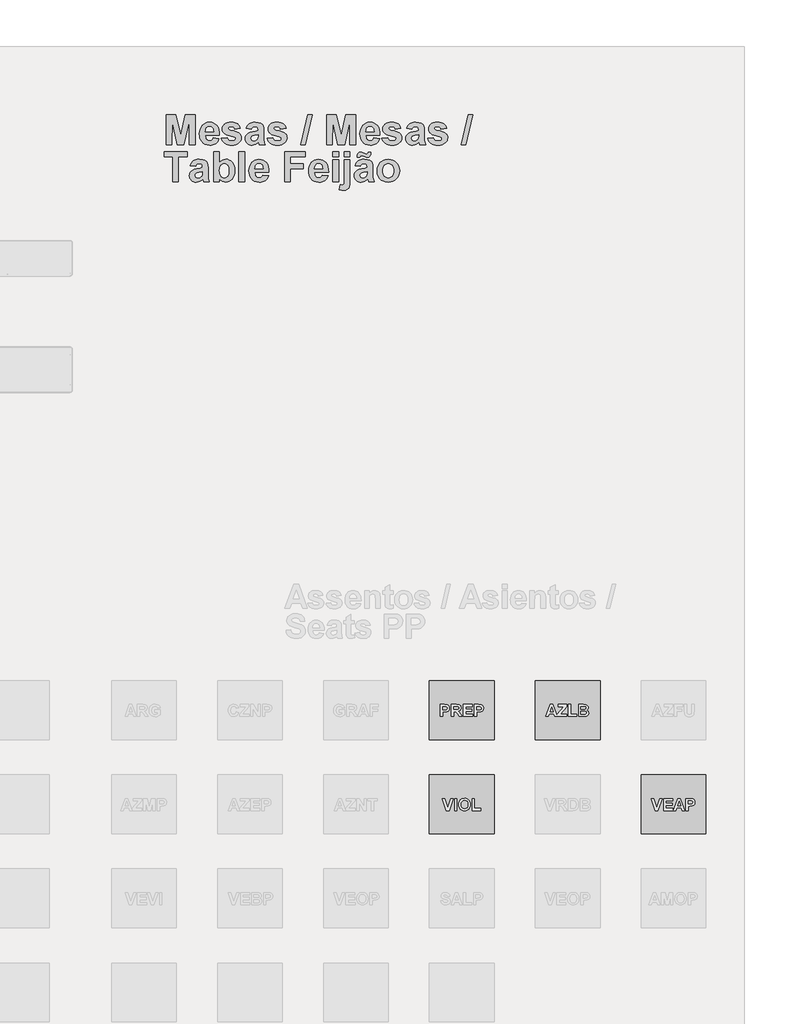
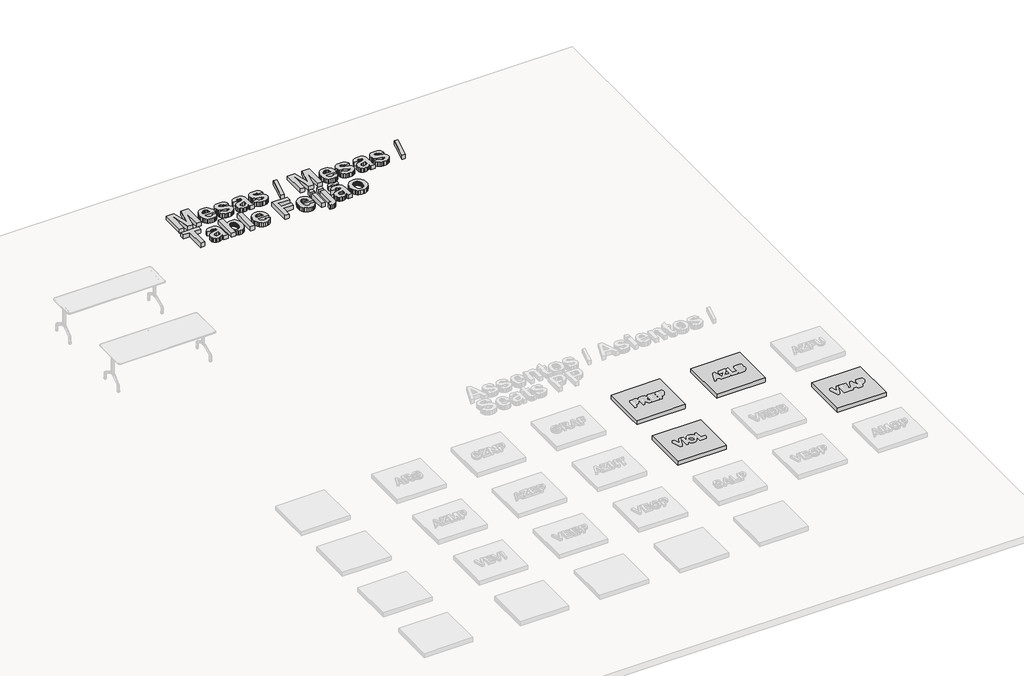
# One storey, part 11 of 11: 5 proxies.
"""IFC4 building model written with IfcOpenShell, lengths in millimetres."""

import ifcopenshell
import ifcopenshell.guid

model = None  # the IFC model being written
_history = None  # IfcOwnerHistory: only IFC2X3 demands one
_inside = {}  # id of a spatial element -> (the spatial element, [elements in it])
_under = {}  # id of a project, library or spatial element -> (it, [spatial elements below it])
_declared = {}  # id of a project -> (the project, [libraries it declares])
_typed = {}  # id of a type object -> (the type object, [elements of that type])
_made_of = {}  # id of a material, layer set ... -> (it, [elements and type objects made of it])


def new_model(schema):
    """Start an empty IFC model of exactly this schema.

    Asked for "IFC4X3", IfcOpenShell would pick the latest addendum, in which some entities
    have other attributes; the version numbers below select the first issue.
    IFC2X3 requires an IfcOwnerHistory on every rooted entity: one is made here for all.
    """
    global model, _history
    if schema == "IFC4X3":
        model = ifcopenshell.file(schema_version=(4, 3, 0, 0))
    else:
        model = ifcopenshell.file(schema=schema)
    _inside.clear()
    _under.clear()
    _declared.clear()
    _typed.clear()
    _made_of.clear()
    _history = None
    if model.schema == "IFC2X3":
        org = make("IfcOrganization", Name="unknown")
        user = make(
            "IfcPersonAndOrganization",
            ThePerson=make("IfcPerson", FamilyName="unknown"),
            TheOrganization=org,
        )
        app = make(
            "IfcApplication",
            ApplicationDeveloper=org,
            Version="unknown",
            ApplicationFullName="unknown",
            ApplicationIdentifier="unknown",
        )
        _history = make(
            "IfcOwnerHistory",
            OwningUser=user,
            OwningApplication=app,
            ChangeAction="ADDED",
            CreationDate=0,
        )
    return model


def make(cls, **values):
    """One entity of the class cls with the attributes given. An attribute that is None is left unset."""
    return model.create_entity(
        cls, **{name: value for name, value in values.items() if value is not None}
    )


def rooted(cls, **values):
    """An entity with a GlobalId (a new one), such as an element, a storey or a relation."""
    return make(cls, GlobalId=ifcopenshell.guid.new(), OwnerHistory=_history, **values)


def si_unit(unit_type, name, prefix=None):
    """IfcSIUnit, for example si_unit("LENGTHUNIT", "METRE", prefix="MILLI")."""
    return make("IfcSIUnit", UnitType=unit_type, Prefix=prefix, Name=name)


def assignment(units):
    """IfcUnitAssignment: the units of a project."""
    return None if units is None else make("IfcUnitAssignment", Units=units)


def point(xyz):
    """IfcCartesianPoint."""
    return None if xyz is None else make("IfcCartesianPoint", Coordinates=xyz)


def direction(xyz):
    """IfcDirection."""
    return None if xyz is None else make("IfcDirection", DirectionRatios=xyz)


def frame(location, z_axis=None, x_axis=None):
    """IfcAxis2Placement3D, a coordinate frame: its origin and axes. An axis left out is left unset."""
    return make(
        "IfcAxis2Placement3D",
        Location=point(location),
        Axis=direction(z_axis),
        RefDirection=direction(x_axis),
    )


def origin():
    """The frame at (0, 0, 0) with its axes left unset."""
    return frame((0.0, 0.0, 0.0))


def origin_with_axes():
    """The frame at (0, 0, 0) with the z axis (0, 0, 1) and the x axis (1, 0, 0) written out."""
    return frame((0.0, 0.0, 0.0), z_axis=(0.0, 0.0, 1.0), x_axis=(1.0, 0.0, 0.0))


def place(relative_to, where):
    """IfcLocalPlacement: puts the frame where relative to a parent placement (None: the world)."""
    return make(
        "IfcLocalPlacement", PlacementRelTo=relative_to, RelativePlacement=where
    )


def context(
    kind, dimensions, precision=None, world=None, true_north=None, identifier=None
):
    """IfcGeometricRepresentationContext, for example the 3D "Model" context."""
    return make(
        "IfcGeometricRepresentationContext",
        ContextIdentifier=identifier,
        ContextType=kind,
        CoordinateSpaceDimension=dimensions,
        Precision=precision,
        WorldCoordinateSystem=world,
        TrueNorth=true_north,
    )


def project(units=None, contexts=None):
    """IfcProject with its units and contexts."""
    return rooted(
        "IfcProject",
        Name="project",
        RepresentationContexts=contexts,
        UnitsInContext=assignment(units),
    )


def spatial(cls, under=None, at=None, **own):
    """A site, building, storey or space (cls), placed at a placement, below another one or the project."""
    s = rooted(cls, ObjectPlacement=at, **own)
    if under is not None:
        _under.setdefault(under.id(), (under, []))[1].append(s)
    return s


def polyline(points):
    """IfcPolyline through the points."""
    return make("IfcPolyline", Points=[point(p) for p in points])


def outline(outer, holes=None, kind="AREA"):
    """IfcArbitraryClosedProfileDef: a profile drawn as a closed curve; with holes, ...WithVoids."""
    if holes is None:
        return make("IfcArbitraryClosedProfileDef", ProfileType=kind, OuterCurve=outer)
    return make(
        "IfcArbitraryProfileDefWithVoids",
        ProfileType=kind,
        OuterCurve=outer,
        InnerCurves=holes,
    )


def extrude(swept, where, along, depth):
    """IfcExtrudedAreaSolid: the profile swept, set in the frame where, extruded along a direction by depth."""
    return make(
        "IfcExtrudedAreaSolid",
        SweptArea=swept,
        Position=where,
        ExtrudedDirection=direction(along),
        Depth=depth,
    )


def shape(context_of_items, identifier, shape_type, items):
    """IfcShapeRepresentation: the items that make up one representation, for example the "Body"."""
    return make(
        "IfcShapeRepresentation",
        ContextOfItems=context_of_items,
        RepresentationIdentifier=identifier,
        RepresentationType=shape_type,
        Items=items,
    )


def source(mapping_origin, context_of_items, identifier, shape_type, items):
    """IfcRepresentationMap: a shape defined once, which mapped items show again and again."""
    return make(
        "IfcRepresentationMap",
        MappingOrigin=mapping_origin,
        MappedRepresentation=shape(context_of_items, identifier, shape_type, items),
    )


def transform(
    local_origin,
    x_axis=None,
    y_axis=None,
    z_axis=None,
    scale=None,
    scale2=None,
    scale3=None,
    uniform=True,
):
    """IfcCartesianTransformationOperator3D, or its non-uniform kind. x_axis, y_axis, z_axis: its Axis1, 2, 3."""
    if uniform:
        return make(
            "IfcCartesianTransformationOperator3D",
            Axis1=direction(x_axis),
            Axis2=direction(y_axis),
            LocalOrigin=point(local_origin),
            Scale=scale,
            Axis3=direction(z_axis),
        )
    return make(
        "IfcCartesianTransformationOperator3DnonUniform",
        Axis1=direction(x_axis),
        Axis2=direction(y_axis),
        LocalOrigin=point(local_origin),
        Scale=scale,
        Axis3=direction(z_axis),
        Scale2=scale2,
        Scale3=scale3,
    )


def mapped(mapping_source, mapping_target):
    """IfcMappedItem: shows the shape of a source again, moved by a transform."""
    return make(
        "IfcMappedItem", MappingSource=mapping_source, MappingTarget=mapping_target
    )


def made_of(thing, what):
    """Note that an element or type object is made of a material, layer set ...; save() writes the relation."""
    if what is not None:
        _made_of.setdefault(what.id(), (what, []))[1].append(thing)
    return thing


def element(
    cls,
    number,
    at=None,
    inside=None,
    cuts=None,
    type_object=None,
    material=None,
    context=None,
    identifier="Body",
    shape_type=None,
    held_by="IfcProductDefinitionShape",
    body=None,
    shapes=None,
    **own,
):
    """One element of the class cls, such as IfcWall. Its Tag is "e" and its number.

    at: its placement. inside: the storey or other place that contains it. cuts: it is an
    opening in that element (IfcRelVoidsElement). A single representation is given by context,
    identifier, shape_type and body (its items); several are given by shapes. held_by: the class
    of the entity that holds the representations. save() writes the other relations.
    """
    e = rooted(cls, Tag="e%d" % number, ObjectPlacement=at, **own)
    if body is not None:
        shapes = [shape(context, identifier, shape_type, body)]
    if shapes is not None:
        e.Representation = make(held_by, Representations=shapes)
    if inside is not None:
        _inside.setdefault(inside.id(), (inside, []))[1].append(e)
    if cuts is not None:
        rooted(
            "IfcRelVoidsElement", RelatingBuildingElement=cuts, RelatedOpeningElement=e
        )
    if type_object is not None:
        _typed.setdefault(type_object.id(), (type_object, []))[1].append(e)
    return made_of(e, material)


def aggregate(whole, parts):
    """IfcRelAggregates: a whole, such as a stair, and the parts it consists of."""
    return rooted("IfcRelAggregates", RelatingObject=whole, RelatedObjects=parts)


def save(model, path):
    """Write the relations noted so far, then the file.

    IfcRelAggregates (storeys below a building ...), IfcRelContainedInSpatialStructure (elements
    in a storey), IfcRelDefinesByType, IfcRelAssociatesMaterial and IfcRelDeclares: one each for
    every whole, place, type object, material and project.
    """
    for whole, parts in _under.values():
        aggregate(whole, parts)
    for where, things in _inside.values():
        rooted(
            "IfcRelContainedInSpatialStructure",
            RelatedElements=things,
            RelatingStructure=where,
        )
    for kind, things in _typed.values():
        rooted("IfcRelDefinesByType", RelatedObjects=things, RelatingType=kind)
    for what, things in _made_of.values():
        rooted("IfcRelAssociatesMaterial", RelatedObjects=things, RelatingMaterial=what)
    for by, libraries in _declared.values():
        rooted("IfcRelDeclares", RelatingContext=by, RelatedDefinitions=libraries)
    model.write(path)


def generic_models_41_generic_models_1_c03e9e06(model_context):
    return source(origin(), model_context, "Body", "SweptSolid", [
        extrude(outline(polyline([(95.1731655, -3424.1855869), (95.1731655, -2424.1855869), (1195.1731655, -2424.1855869), (1195.1731655, -3424.1855869), (95.1731655, -3424.1855869)])), origin_with_axes(), (0.0, 0.0, 1.0), 100.0),
    ])


def generic_models_42_generic_models_1_e7106305(model_context):
    return source(origin(), model_context, "Body", "SweptSolid", [
        extrude(outline(polyline([(1895.1731655, -3424.1855869), (1895.1731655, -2424.1855869), (2995.1731655, -2424.1855869), (2995.1731655, -3424.1855869), (1895.1731655, -3424.1855869)])), origin_with_axes(), (0.0, 0.0, 1.0), 100.0),
    ])


def generic_models_44_generic_models_1_6b9e85da(model_context):
    return source(origin(), model_context, "Body", "SweptSolid", [
        extrude(outline(polyline([(-5304.8268345, -5024.1855869), (-5304.8268345, -4024.1855869), (-4204.8268345, -4024.1855869), (-4204.8268345, -5024.1855869), (-5304.8268345, -5024.1855869)])), origin_with_axes(), (0.0, 0.0, 1.0), 100.0),
    ])


def generic_models_50_generic_models_1_aca8a060(model_context):
    return source(origin(), model_context, "Body", "SweptSolid", [
        extrude(outline(polyline([(-1704.8268345, -5024.1855869), (-1704.8268345, -4024.1855869), (-604.8268345, -4024.1855869), (-604.8268345, -5024.1855869), (-1704.8268345, -5024.1855869)])), origin_with_axes(), (0.0, 0.0, 1.0), 100.0),
    ])


model = new_model("IFC4")

# Units and contexts
model_context = context("Model", 3, world=origin())
ifc_project = project(units=[si_unit("LENGTHUNIT", "METRE", prefix="MILLI")], contexts=[model_context])

# Site, building, storey
site = spatial("IfcSite", under=ifc_project)
building = spatial("IfcBuilding", under=site)
storey = spatial("IfcBuildingStorey", under=building, Name="Biblioteca BIM Revit Metadil - Refeitório", Elevation=0.0)

# Proxies
placement = place(None, origin())
element("IfcBuildingElementProxy", 1, Name="Arial 500mm", ObjectType="Arial 500mm", at=placement, inside=storey, context=model_context, shape_type="SweptSolid", body=[
    extrude(outline(polyline([(3660.9458691, 11668.448354), (3660.9458691, 12178.5780539), (3827.4465351, 12178.5780539), (3907.9134223, 11830.647331), (3988.3803094, 12178.5780539), (4154.8809754, 12178.5780539), (4154.8809754, 11668.448354), (4057.7134135, 11668.448354), (4053.6647651, 12070.0236684), (3964.8475406, 11668.448354), (3851.1058242, 11668.448354), (3762.1620794, 12070.0236684), (3758.113431, 11668.448354), (3660.9458691, 11668.448354)])), origin_with_axes(), (0.0, 0.0, 1.0), 100.0),
    extrude(outline(polyline([(4462.5782548, 11781.8105095), (4559.7458167, 11765.6159159), (4549.2446348, 11741.4070543), (4536.0865275, 11720.2742166), (4520.2714946, 11702.2174029), (4501.7995363, 11687.236613), (4480.757635, 11675.4741823), (4457.2327737, 11667.0724461), (4431.2249521, 11662.0314044), (4402.7341704, 11660.3510571), (4358.7288415, 11664.3127229), (4320.8439303, 11676.1977201), (4289.0794368, 11696.0060487), (4263.435361, 11723.7377088), (4247.8259235, 11750.7735075), (4236.6763254, 11781.1462781), (4229.9865665, 11814.8560207), (4227.7566468, 11851.9027352), (4230.714058, 11895.5838559), (4239.5862914, 11934.2674263), (4254.3733471, 11967.9534463), (4275.0752252, 11996.6419159), (4300.3002026, 12019.5578985), (4328.6565565, 12035.9264575), (4360.1442869, 12045.7475929), (4394.7633939, 12049.0213047), (4433.2334613, 12045.6606103), (4467.4176548, 12035.5785268), (4497.3159744, 12018.7750544), (4522.9284202, 11995.250193), (4543.3377201, 11964.7825322), (4557.6266023, 11927.1506615), (4565.7950667, 11882.3545809), (4567.8431135, 11830.3942905), (4324.9242087, 11830.3942905), (4331.1553317, 11789.4649854), (4338.1851138, 11772.8433859), (4347.8243763, 11758.7838217), (4359.440518, 11747.6025934), (4372.4009374, 11739.6160018), (4386.7056346, 11734.8240469), (4402.3546096, 11733.2267286), (4422.756002, 11736.1050645), (4439.6780872, 11744.7400725), (4452.9943449, 11759.7643537), (4462.5782548, 11781.8105095)]), holes=[polyline([(4470.6755516, 11887.0753682), (4464.7607293, 11925.4900831), (4458.126323, 11940.7713586), (4449.0405866, 11953.4352461), (4426.2036792, 11970.4680365), (4398.9385625, 11976.1456333), (4383.8668362, 11974.6511127), (4370.1552027, 11970.1675509), (4357.8036621, 11962.6949479), (4346.8122142, 11952.2333036), (4337.8609056, 11939.1463639), (4331.5032624, 11923.9243948), (4326.5689722, 11887.0753682), (4470.6755516, 11887.0753682)])]), origin_with_axes(), (0.0, 0.0, 1.0), 100.0),
    extrude(outline(polyline([(4600.2323008, 11773.7132127), (4697.3998627, 11789.9078063), (4706.6516569, 11765.4261355), (4722.2610944, 11747.6500385), (4744.7658861, 11736.8325561), (4774.7037433, 11733.2267286), (4807.1878208, 11736.6744057), (4830.4991793, 11747.0174372), (4839.988199, 11758.2777406), (4843.1512055, 11772.8275708), (4841.4748121, 11782.8859317), (4836.4456316, 11791.0464887), (4824.9639178, 11797.7204326), (4804.6890456, 11803.8250353), (4710.8426406, 11828.6862669), (4679.6949334, 11840.3103161), (4659.064223, 11851.3966541), (4640.4103918, 11867.9154559), (4627.0862266, 11887.3600388), (4619.0917275, 11909.7304028), (4616.4268944, 11935.0265479), (4618.7121667, 11958.1718485), (4625.5679834, 11979.4035301), (4636.9943447, 11998.7215927), (4652.9912504, 12016.1260364), (4673.7959261, 12030.5177163), (4699.6455974, 12040.7974877), (4730.5402641, 12046.9653505), (4766.4799262, 12049.0213047), (4800.6957498, 12047.3607263), (4830.2145087, 12042.3789909), (4855.0362027, 12034.0760987), (4875.1608321, 12022.4520495), (4891.5531136, 12007.5701036), (4905.1777644, 11989.493521), (4916.0347845, 11968.2223019), (4924.1241738, 11943.756446), (4826.9566119, 11927.5618524), (4819.808217, 11948.3428055), (4808.231613, 11963.6201273), (4791.5309383, 11973.0142568), (4769.0103315, 11976.1456333), (4741.334024, 11973.4887078), (4722.8304355, 11965.5179312), (4715.9034511, 11956.7880331), (4713.5944563, 11945.7807702), (4715.9034511, 11936.2601204), (4722.8304355, 11928.1944537), (4750.5225581, 11916.5862196), (4808.8009542, 11900.9925972), (4871.2545189, 11881.3503263), (4894.1428252, 11869.9872252), (4911.4721475, 11857.596147), (4924.0925437, 11843.2123746), (4933.1071125, 11826.2507519), (4938.5158537, 11806.7112788), (4940.3187674, 11784.5939553), (4937.7053333, 11759.9976254), (4929.8650307, 11737.1963018), (4916.7978598, 11716.1899844), (4898.5038206, 11696.9786732), (4875.0857106, 11680.9540912), (4846.6463278, 11669.5079612), (4813.185672, 11662.6402831), (4774.7037433, 11660.3510571), (4739.4480813, 11662.2567686), (4708.0750099, 11667.973903), (4680.584529, 11677.5024603), (4656.9766387, 11690.8424405), (4637.1801713, 11707.4561325), (4621.1239592, 11726.8058252), (4608.8080024, 11748.8915186), (4600.2323008, 11773.7132127)])), origin_with_axes(), (0.0, 0.0, 1.0), 100.0),
    extrude(outline(polyline([(5110.3620008, 11927.5618524), (5021.2917357, 11943.756446), (5029.6618418, 11968.8390881), (5040.6018908, 11990.442423), (5054.1118826, 12008.5664507), (5070.1918173, 12023.2111711), (5089.656169, 12034.5031046), (5113.3194119, 12042.5687713), (5141.1815461, 12047.4081714), (5173.2425714, 12049.0213047), (5227.424874, 12045.1149916), (5265.7288836, 12033.3960523), (5291.6022774, 12015.6832155), (5308.4927325, 11993.79521), (5317.7919718, 11959.7770743), (5320.8917182, 11905.6738469), (5320.8917182, 11790.7934482), (5322.1727359, 11748.1561196), (5326.0157889, 11718.4238578), (5333.3697792, 11694.2901177), (5345.1836087, 11668.448354), (5248.0160468, 11668.448354), (5238.9065879, 11699.3192981), (5235.4905408, 11711.5917636), (5210.3446385, 11689.2134921), (5183.4907127, 11673.1928638), (5154.8655032, 11663.5615088), (5124.40575, 11660.3510571), (5098.1646567, 11662.3002599), (5074.857252, 11668.1478683), (5054.4835359, 11677.8938823), (5037.0435084, 11691.5383019), (5023.0669731, 11708.1559477), (5013.0837336, 11726.8216403), (5007.0937899, 11747.5353795), (5005.097142, 11770.2971656), (5008.6555244, 11800.0926875), (5019.3306716, 11826.4721623), (5036.4267221, 11848.2652776), (5059.2478146, 11864.3017209), (5090.5932097, 11876.6058165), (5133.2621684, 11887.2018885), (5188.5198932, 11899.6957645), (5223.7241563, 11911.3672587), (5223.7241563, 11921.6154), (5220.703485, 11946.8561925), (5211.6414712, 11963.6201273), (5194.22912, 11973.0142568), (5166.1574367, 11976.1456333), (5146.0090848, 11973.4570777), (5130.8582834, 11965.391411), (5119.4081996, 11950.5569101), (5110.3620008, 11927.5618524)]), holes=[polyline([(5223.7241563, 11838.4915873), (5168.9408825, 11825.0171793), (5137.9434181, 11817.2836282), (5119.8510205, 11809.6449673), (5106.6612831, 11795.8226286), (5102.2647039, 11778.6475029), (5105.7914563, 11761.4249322), (5116.3717133, 11746.7011366), (5132.3923415, 11736.5953306), (5152.2402078, 11733.2267286), (5176.0576473, 11737.1488567), (5198.6731443, 11748.9152412), (5212.2740725, 11762.1366086), (5220.181589, 11778.0149016), (5223.7241563, 11820.9052707), (5223.7241563, 11838.4915873)])]), origin_with_axes(), (0.0, 0.0, 1.0), 100.0),
    extrude(outline(polyline([(5377.572796, 11773.7132127), (5474.7403579, 11789.9078063), (5483.9921521, 11765.4261355), (5499.6015896, 11747.6500385), (5522.1063813, 11736.8325561), (5552.0442385, 11733.2267286), (5584.528316, 11736.6744057), (5607.8396745, 11747.0174372), (5617.3286942, 11758.2777406), (5620.4917007, 11772.8275708), (5618.8153073, 11782.8859317), (5613.7861268, 11791.0464887), (5602.304413, 11797.7204326), (5582.0295408, 11803.8250353), (5488.1831358, 11828.6862669), (5457.0354286, 11840.3103161), (5436.4047182, 11851.3966541), (5417.750887, 11867.9154559), (5404.4267218, 11887.3600388), (5396.4322227, 11909.7304028), (5393.7673896, 11935.0265479), (5396.0526619, 11958.1718485), (5402.9084786, 11979.4035301), (5414.3348399, 11998.7215927), (5430.3317456, 12016.1260364), (5451.1364214, 12030.5177163), (5476.9860926, 12040.7974877), (5507.8807593, 12046.9653505), (5543.8204214, 12049.0213047), (5578.036245, 12047.3607263), (5607.5550039, 12042.3789909), (5632.3766979, 12034.0760987), (5652.5013273, 12022.4520495), (5668.8936088, 12007.5701036), (5682.5182596, 11989.493521), (5693.3752797, 11968.2223019), (5701.464669, 11943.756446), (5604.2971071, 11927.5618524), (5597.1487122, 11948.3428055), (5585.5721082, 11963.6201273), (5568.8714335, 11973.0142568), (5546.3508267, 11976.1456333), (5518.6745192, 11973.4887078), (5500.1709307, 11965.5179312), (5493.2439463, 11956.7880331), (5490.9349515, 11945.7807702), (5493.2439463, 11936.2601204), (5500.1709307, 11928.1944537), (5527.8630533, 11916.5862196), (5586.1414494, 11900.9925972), (5648.5950141, 11881.3503263), (5671.4833205, 11869.9872252), (5688.8126427, 11857.596147), (5701.4330389, 11843.2123746), (5710.4476077, 11826.2507519), (5715.8563489, 11806.7112788), (5717.6592627, 11784.5939553), (5715.0458285, 11759.9976254), (5707.2055259, 11737.1963018), (5694.138355, 11716.1899844), (5675.8443158, 11696.9786732), (5652.4262059, 11680.9540912), (5623.986823, 11669.5079612), (5590.5261672, 11662.6402831), (5552.0442385, 11660.3510571), (5516.7885765, 11662.2567686), (5485.4155051, 11667.973903), (5457.9250242, 11677.5024603), (5434.3171339, 11690.8424405), (5414.5206665, 11707.4561325), (5398.4644544, 11726.8058252), (5386.1484976, 11748.8915186), (5377.572796, 11773.7132127)])), origin_with_axes(), (0.0, 0.0, 1.0), 100.0),
    extrude(outline(polyline([(5950.7095869, 11668.448354), (6072.1690393, 12178.5780539), (6146.8159944, 12178.5780539), (6025.356542, 11668.448354), (5950.7095869, 11668.448354)])), origin_with_axes(), (0.0, 0.0, 1.0), 100.0),
    extrude(outline(polyline([(6389.7348991, 11668.448354), (6389.7348991, 12178.5780539), (6556.2355651, 12178.5780539), (6636.7024523, 11830.647331), (6717.1693395, 12178.5780539), (6883.6700055, 12178.5780539), (6883.6700055, 11668.448354), (6786.5024436, 11668.448354), (6782.4537951, 12070.0236684), (6693.6365706, 11668.448354), (6579.8948543, 11668.448354), (6490.9511094, 12070.0236684), (6486.902461, 11668.448354), (6389.7348991, 11668.448354)])), origin_with_axes(), (0.0, 0.0, 1.0), 100.0),
    extrude(outline(polyline([(7191.3672848, 11781.8105095), (7288.5348467, 11765.6159159), (7278.0336649, 11741.4070543), (7264.8755576, 11720.2742166), (7249.0605247, 11702.2174029), (7230.5885663, 11687.236613), (7209.5466651, 11675.4741823), (7186.0218037, 11667.0724461), (7160.0139822, 11662.0314044), (7131.5232005, 11660.3510571), (7087.5178715, 11664.3127229), (7049.6329603, 11676.1977201), (7017.8684668, 11696.0060487), (6992.224391, 11723.7377088), (6976.6149536, 11750.7735075), (6965.4653554, 11781.1462781), (6958.7755965, 11814.8560207), (6956.5456769, 11851.9027352), (6959.503088, 11895.5838559), (6968.3753215, 11934.2674263), (6983.1623772, 11967.9534463), (7003.8642552, 11996.6419159), (7029.0892326, 12019.5578985), (7057.4455865, 12035.9264575), (7088.933317, 12045.7475929), (7123.5524239, 12049.0213047), (7162.0224913, 12045.6606103), (7196.2066849, 12035.5785268), (7226.1050045, 12018.7750544), (7251.7174502, 11995.250193), (7272.1267501, 11964.7825322), (7286.4156323, 11927.1506615), (7294.5840968, 11882.3545809), (7296.6321435, 11830.3942905), (7053.7132388, 11830.3942905), (7059.9443617, 11789.4649854), (7066.9741438, 11772.8433859), (7076.6134064, 11758.7838217), (7088.229548, 11747.6025934), (7101.1899674, 11739.6160018), (7115.4946647, 11734.8240469), (7131.1436397, 11733.2267286), (7151.5450321, 11736.1050645), (7168.4671172, 11744.7400725), (7181.7833749, 11759.7643537), (7191.3672848, 11781.8105095)]), holes=[polyline([(7199.4645816, 11887.0753682), (7193.5497593, 11925.4900831), (7186.9153531, 11940.7713586), (7177.8296167, 11953.4352461), (7154.9927092, 11970.4680365), (7127.7275926, 11976.1456333), (7112.6558663, 11974.6511127), (7098.9442328, 11970.1675509), (7086.5926921, 11962.6949479), (7075.6012443, 11952.2333036), (7066.6499357, 11939.1463639), (7060.2922925, 11923.9243948), (7055.3580022, 11887.0753682), (7199.4645816, 11887.0753682)])]), origin_with_axes(), (0.0, 0.0, 1.0), 100.0),
    extrude(outline(polyline([(7329.0213308, 11773.7132127), (7426.1888927, 11789.9078063), (7435.440687, 11765.4261355), (7451.0501244, 11747.6500385), (7473.5549162, 11736.8325561), (7503.4927734, 11733.2267286), (7535.9768509, 11736.6744057), (7559.2882093, 11747.0174372), (7568.777229, 11758.2777406), (7571.9402356, 11772.8275708), (7570.2638421, 11782.8859317), (7565.2346617, 11791.0464887), (7553.7529478, 11797.7204326), (7533.4780757, 11803.8250353), (7439.6316707, 11828.6862669), (7408.4839634, 11840.3103161), (7387.8532531, 11851.3966541), (7369.1994218, 11867.9154559), (7355.8752566, 11887.3600388), (7347.8807575, 11909.7304028), (7345.2159245, 11935.0265479), (7347.5011967, 11958.1718485), (7354.3570135, 11979.4035301), (7365.7833747, 11998.7215927), (7381.7802805, 12016.1260364), (7402.5849562, 12030.5177163), (7428.4346274, 12040.7974877), (7459.3292941, 12046.9653505), (7495.2689563, 12049.0213047), (7529.4847799, 12047.3607263), (7559.0035387, 12042.3789909), (7583.8252328, 12034.0760987), (7603.9498621, 12022.4520495), (7620.3421437, 12007.5701036), (7633.9667945, 11989.493521), (7644.8238145, 11968.2223019), (7652.9132038, 11943.756446), (7555.7456419, 11927.5618524), (7548.5972471, 11948.3428055), (7537.020643, 11963.6201273), (7520.3199683, 11973.0142568), (7497.7993615, 11976.1456333), (7470.123054, 11973.4887078), (7451.6194656, 11965.5179312), (7444.6924812, 11956.7880331), (7442.3834864, 11945.7807702), (7444.6924812, 11936.2601204), (7451.6194656, 11928.1944537), (7479.3115881, 11916.5862196), (7537.5899842, 11900.9925972), (7600.043549, 11881.3503263), (7622.9318553, 11869.9872252), (7640.2611775, 11857.596147), (7652.8815738, 11843.2123746), (7661.8961425, 11826.2507519), (7667.3048837, 11806.7112788), (7669.1077975, 11784.5939553), (7666.4943633, 11759.9976254), (7658.6540608, 11737.1963018), (7645.5868899, 11716.1899844), (7627.2928506, 11696.9786732), (7603.8747407, 11680.9540912), (7575.4353579, 11669.5079612), (7541.9747021, 11662.6402831), (7503.4927734, 11660.3510571), (7468.2371114, 11662.2567686), (7436.8640399, 11667.973903), (7409.373559, 11677.5024603), (7385.7656687, 11690.8424405), (7365.9692014, 11707.4561325), (7349.9129892, 11726.8058252), (7337.5970324, 11748.8915186), (7329.0213308, 11773.7132127)])), origin_with_axes(), (0.0, 0.0, 1.0), 100.0),
    extrude(outline(polyline([(7839.1510308, 11927.5618524), (7750.0807657, 11943.756446), (7758.4508719, 11968.8390881), (7769.3909209, 11990.442423), (7782.9009127, 12008.5664507), (7798.9808473, 12023.2111711), (7818.445199, 12034.5031046), (7842.108442, 12042.5687713), (7869.9705761, 12047.4081714), (7902.0316015, 12049.0213047), (7956.2139041, 12045.1149916), (7994.5179136, 12033.3960523), (8020.3913074, 12015.6832155), (8037.2817625, 11993.79521), (8046.5810018, 11959.7770743), (8049.6807483, 11905.6738469), (8049.6807483, 11790.7934482), (8050.9617659, 11748.1561196), (8054.8048189, 11718.4238578), (8062.1588092, 11694.2901177), (8073.9726387, 11668.448354), (7976.8050768, 11668.448354), (7967.6956179, 11699.3192981), (7964.2795708, 11711.5917636), (7939.1336686, 11689.2134921), (7912.2797428, 11673.1928638), (7883.6545333, 11663.5615088), (7853.19478, 11660.3510571), (7826.9536867, 11662.3002599), (7803.646282, 11668.1478683), (7783.272566, 11677.8938823), (7765.8325385, 11691.5383019), (7751.8560032, 11708.1559477), (7741.8727637, 11726.8216403), (7735.88282, 11747.5353795), (7733.8861721, 11770.2971656), (7737.4445545, 11800.0926875), (7748.1197017, 11826.4721623), (7765.2157522, 11848.2652776), (7788.0368446, 11864.3017209), (7819.3822397, 11876.6058165), (7862.0511984, 11887.2018885), (7917.3089232, 11899.6957645), (7952.5131864, 11911.3672587), (7952.5131864, 11921.6154), (7949.4925151, 11946.8561925), (7940.4305013, 11963.6201273), (7923.0181501, 11973.0142568), (7894.9464667, 11976.1456333), (7874.7981149, 11973.4570777), (7859.6473134, 11965.391411), (7848.1972296, 11950.5569101), (7839.1510308, 11927.5618524)]), holes=[polyline([(7952.5131864, 11838.4915873), (7897.7299125, 11825.0171793), (7866.7324481, 11817.2836282), (7848.6400505, 11809.6449673), (7835.4503131, 11795.8226286), (7831.053734, 11778.6475029), (7834.5804863, 11761.4249322), (7845.1607433, 11746.7011366), (7861.1813716, 11736.5953306), (7881.0292378, 11733.2267286), (7904.8466773, 11737.1488567), (7927.4621743, 11748.9152412), (7941.0631026, 11762.1366086), (7948.970619, 11778.0149016), (7952.5131864, 11820.9052707), (7952.5131864, 11838.4915873)])]), origin_with_axes(), (0.0, 0.0, 1.0), 100.0),
    extrude(outline(polyline([(8106.361826, 11773.7132127), (8203.5293879, 11789.9078063), (8212.7811822, 11765.4261355), (8228.3906196, 11747.6500385), (8250.8954114, 11736.8325561), (8280.8332686, 11733.2267286), (8313.3173461, 11736.6744057), (8336.6287045, 11747.0174372), (8346.1177242, 11758.2777406), (8349.2807308, 11772.8275708), (8347.6043373, 11782.8859317), (8342.5751569, 11791.0464887), (8331.093443, 11797.7204326), (8310.8185709, 11803.8250353), (8216.9721659, 11828.6862669), (8185.8244587, 11840.3103161), (8165.1937483, 11851.3966541), (8146.539917, 11867.9154559), (8133.2157518, 11887.3600388), (8125.2212527, 11909.7304028), (8122.5564197, 11935.0265479), (8124.8416919, 11958.1718485), (8131.6975087, 11979.4035301), (8143.1238699, 11998.7215927), (8159.1207757, 12016.1260364), (8179.9254514, 12030.5177163), (8205.7751226, 12040.7974877), (8236.6697893, 12046.9653505), (8272.6094515, 12049.0213047), (8306.8252751, 12047.3607263), (8336.3440339, 12042.3789909), (8361.165728, 12034.0760987), (8381.2903573, 12022.4520495), (8397.6826389, 12007.5701036), (8411.3072897, 11989.493521), (8422.1643097, 11968.2223019), (8430.253699, 11943.756446), (8333.0861371, 11927.5618524), (8325.9377423, 11948.3428055), (8314.3611382, 11963.6201273), (8297.6604635, 11973.0142568), (8275.1398567, 11976.1456333), (8247.4635492, 11973.4887078), (8228.9599608, 11965.5179312), (8222.0329764, 11956.7880331), (8219.7239816, 11945.7807702), (8222.0329764, 11936.2601204), (8228.9599608, 11928.1944537), (8256.6520833, 11916.5862196), (8314.9304794, 11900.9925972), (8377.3840442, 11881.3503263), (8400.2723505, 11869.9872252), (8417.6016728, 11857.596147), (8430.222069, 11843.2123746), (8439.2366377, 11826.2507519), (8444.6453789, 11806.7112788), (8446.4482927, 11784.5939553), (8443.8348585, 11759.9976254), (8435.994556, 11737.1963018), (8422.9273851, 11716.1899844), (8404.6333458, 11696.9786732), (8381.2152359, 11680.9540912), (8352.7758531, 11669.5079612), (8319.3151973, 11662.6402831), (8280.8332686, 11660.3510571), (8245.5776066, 11662.2567686), (8214.2045351, 11667.973903), (8186.7140543, 11677.5024603), (8163.1061639, 11690.8424405), (8143.3096966, 11707.4561325), (8127.2534845, 11726.8058252), (8114.9375276, 11748.8915186), (8106.361826, 11773.7132127)])), origin_with_axes(), (0.0, 0.0, 1.0), 100.0),
    extrude(outline(polyline([(8679.4986169, 11668.448354), (8800.9580693, 12178.5780539), (8875.6050244, 12178.5780539), (8754.145572, 11668.448354), (8679.4986169, 11668.448354)])), origin_with_axes(), (0.0, 0.0, 1.0), 100.0),
    extrude(outline(polyline([(3774.3080246, 11038.8916048), (3774.3080246, 11459.9510397), (3628.5566818, 11459.9510397), (3628.5566818, 11549.0213047), (4017.2269294, 11549.0213047), (4017.2269294, 11459.9510397), (3871.4755865, 11459.9510397), (3871.4755865, 11038.8916048), (3774.3080246, 11038.8916048)])), origin_with_axes(), (0.0, 0.0, 1.0), 100.0),
    extrude(outline(polyline([(4162.9782722, 11298.0051032), (4073.9080072, 11314.1996968), (4082.2781133, 11339.2823389), (4093.2181623, 11360.8856738), (4106.7281541, 11379.0097015), (4122.8080888, 11393.6544219), (4142.2724405, 11404.9463554), (4165.9356834, 11413.0120221), (4193.7978175, 11417.8514222), (4225.8588429, 11419.4645555), (4280.0411455, 11415.5582424), (4318.3451551, 11403.8393031), (4344.2185488, 11386.1264663), (4361.1090039, 11364.2384608), (4370.4082433, 11330.2203251), (4373.5079897, 11276.1170977), (4373.5079897, 11161.236699), (4374.7890074, 11118.5993704), (4378.6320603, 11088.8671086), (4385.9860506, 11064.7333685), (4397.7998802, 11038.8916048), (4300.6323183, 11038.8916048), (4291.5228593, 11069.7625489), (4288.1068122, 11082.0350144), (4262.96091, 11059.6567429), (4236.1069842, 11043.6361146), (4207.4817747, 11034.0047596), (4177.0220214, 11030.7943079), (4150.7809281, 11032.7435107), (4127.4735235, 11038.5911191), (4107.0998074, 11048.3371331), (4089.6597799, 11061.9815527), (4075.6832446, 11078.5991985), (4065.7000051, 11097.2648911), (4059.7100614, 11117.9786303), (4057.7134135, 11140.7404164), (4061.2717959, 11170.5359383), (4071.9469431, 11196.9154131), (4089.0429936, 11218.7085284), (4111.864086, 11234.7449717), (4143.2094812, 11247.0490673), (4185.8784398, 11257.6451393), (4241.1361646, 11270.1390153), (4276.3404278, 11281.8105095), (4276.3404278, 11292.0586508), (4273.3197565, 11317.2994433), (4264.2577427, 11334.0633781), (4246.8453915, 11343.4575076), (4218.7737082, 11346.5888841), (4198.6253563, 11343.9003285), (4183.4745548, 11335.8346618), (4172.024471, 11321.0001609), (4162.9782722, 11298.0051032)]), holes=[polyline([(4276.3404278, 11208.9348381), (4221.557154, 11195.4604301), (4190.5596895, 11187.726879), (4172.467292, 11180.0882181), (4159.2775545, 11166.2658794), (4154.8809754, 11149.0907537), (4158.4077277, 11131.868183), (4168.9879847, 11117.1443874), (4185.008613, 11107.0385814), (4204.8564793, 11103.6699794), (4228.6739187, 11107.5921075), (4251.2894157, 11119.358492), (4264.890344, 11132.5798594), (4272.7978604, 11148.4581524), (4276.3404278, 11191.3485215), (4276.3404278, 11208.9348381)])]), origin_with_axes(), (0.0, 0.0, 1.0), 100.0),
    extrude(outline(polyline([(4470.6755516, 11038.8916048), (4470.6755516, 11549.0213047), (4567.8431135, 11549.0213047), (4567.8431135, 11368.4768896), (4591.1386569, 11390.7839934), (4616.4901546, 11406.7176391), (4643.8976065, 11416.2778264), (4673.3610127, 11419.4645555), (4705.1966739, 11416.3885316), (4734.1539991, 11407.16046), (4760.2329883, 11391.7803405), (4783.4336415, 11370.2481733), (4802.474941, 11342.9593341), (4816.0758693, 11310.3091987), (4824.2364262, 11272.2977672), (4826.9566119, 11228.9250396), (4824.2522413, 11184.0815139), (4816.1391294, 11144.6941746), (4802.6172763, 11110.7630216), (4783.686682, 11082.2880549), (4760.8972196, 11059.7595406), (4735.7987625, 11043.6677447), (4708.3913105, 11034.0126671), (4678.6748638, 11030.7943079), (4648.5155961, 11034.684806), (4618.7675193, 11046.3563003), (4591.2651772, 11065.6822704), (4567.8431135, 11092.5361962), (4567.8431135, 11038.8916048), (4470.6755516, 11038.8916048)]), holes=[polyline([(4567.8431135, 11232.2145665), (4572.3345828, 11180.4045188), (4577.9489195, 11160.3352421), (4585.8089908, 11144.1564635), (4599.378289, 11126.4436267), (4615.0351716, 11113.7916004), (4632.7796384, 11106.2003846), (4652.6116896, 11103.6699794), (4668.0273929, 11105.4649856), (4682.2648762, 11110.8500043), (4695.3241396, 11119.8250354), (4707.2051831, 11132.390079), (4717.0856248, 11148.8060831), (4724.1430833, 11169.3339958), (4728.3775583, 11193.973817), (4729.78905, 11222.7255467), (4728.3696508, 11253.3236816), (4724.1114532, 11279.3275494), (4717.0144572, 11300.7371501), (4707.0786628, 11317.5524838), (4694.9208563, 11330.2559089), (4681.1578239, 11339.329784), (4665.7895658, 11344.7741091), (4648.8160817, 11346.5888841), (4632.1509909, 11344.8176004), (4616.9487905, 11339.5037494), (4603.2094807, 11330.647331), (4590.9330615, 11318.2483452), (4580.8312092, 11302.243532), (4573.6156005, 11282.5696311), (4569.2862352, 11259.2266426), (4567.8431135, 11232.2145665)])]), origin_with_axes(), (0.0, 0.0, 1.0), 100.0),
    extrude(outline(polyline([(4899.8322833, 11038.8916048), (4899.8322833, 11549.0213047), (4996.9998452, 11549.0213047), (4996.9998452, 11038.8916048), (4899.8322833, 11038.8916048)])), origin_with_axes(), (0.0, 0.0, 1.0), 100.0),
    extrude(outline(polyline([(5304.6971246, 11152.2537603), (5401.8646865, 11136.0591667), (5391.3635047, 11111.8503051), (5378.2053973, 11090.7174674), (5362.3903645, 11072.6606537), (5343.9184061, 11057.6798638), (5322.8765048, 11045.9174331), (5299.3516435, 11037.5156969), (5273.3438219, 11032.4746552), (5244.8530402, 11030.7943079), (5200.8477113, 11034.7559737), (5162.9628001, 11046.6409709), (5131.1983066, 11066.4492995), (5105.5542308, 11094.1809596), (5089.9447933, 11121.2167583), (5078.7951952, 11151.5895289), (5072.1054363, 11185.2992715), (5069.8755166, 11222.345986), (5072.8329278, 11266.0271067), (5081.7051612, 11304.7106771), (5096.492217, 11338.3966971), (5117.194095, 11367.0851667), (5142.4190724, 11390.0011493), (5170.7754263, 11406.3697083), (5202.2631567, 11416.1908437), (5236.8822637, 11419.4645555), (5275.3523311, 11416.1038611), (5309.5365246, 11406.0217776), (5339.4348443, 11389.2183052), (5365.04729, 11365.6934438), (5385.4565899, 11335.225783), (5399.7454721, 11297.5939123), (5407.9139365, 11252.7978317), (5409.9619833, 11200.8375413), (5167.0430785, 11200.8375413), (5173.2742015, 11159.9082362), (5180.3039836, 11143.2866367), (5189.9432461, 11129.2270725), (5201.5593878, 11118.0458442), (5214.5198072, 11110.0592526), (5228.8245044, 11105.2672977), (5244.4734794, 11103.6699794), (5264.8748718, 11106.5483153), (5281.796957, 11115.1833233), (5295.1132147, 11130.2076045), (5304.6971246, 11152.2537603)]), holes=[polyline([(5312.7944214, 11257.518619), (5306.8795991, 11295.9333339), (5300.2451928, 11311.2146094), (5291.1594564, 11323.8784969), (5268.322549, 11340.9112873), (5241.0574323, 11346.5888841), (5225.985706, 11345.0943635), (5212.2740725, 11340.6108017), (5199.9225319, 11333.1381987), (5188.931084, 11322.6765544), (5179.9797754, 11309.5896147), (5173.6221322, 11294.3676456), (5168.687842, 11257.518619), (5312.7944214, 11257.518619)])]), origin_with_axes(), (0.0, 0.0, 1.0), 100.0),
    extrude(outline(polyline([(5677.1727785, 11038.8916048), (5677.1727785, 11549.0213047), (6025.356542, 11549.0213047), (6025.356542, 11459.9510397), (5774.3403404, 11459.9510397), (5774.3403404, 11346.5888841), (5992.9673547, 11346.5888841), (5992.9673547, 11257.518619), (5774.3403404, 11257.518619), (5774.3403404, 11038.8916048), (5677.1727785, 11038.8916048)])), origin_with_axes(), (0.0, 0.0, 1.0), 100.0),
    extrude(outline(polyline([(6316.8592277, 11152.2537603), (6414.0267896, 11136.0591667), (6403.5256078, 11111.8503051), (6390.3675004, 11090.7174674), (6374.5524676, 11072.6606537), (6356.0805092, 11057.6798638), (6335.038608, 11045.9174331), (6311.5137466, 11037.5156969), (6285.5059251, 11032.4746552), (6257.0151434, 11030.7943079), (6213.0098144, 11034.7559737), (6175.1249032, 11046.6409709), (6143.3604097, 11066.4492995), (6117.7163339, 11094.1809596), (6102.1068965, 11121.2167583), (6090.9572983, 11151.5895289), (6084.2675394, 11185.2992715), (6082.0376198, 11222.345986), (6084.9950309, 11266.0271067), (6093.8672644, 11304.7106771), (6108.6543201, 11338.3966971), (6129.3561981, 11367.0851667), (6154.5811755, 11390.0011493), (6182.9375294, 11406.3697083), (6214.4252599, 11416.1908437), (6249.0443668, 11419.4645555), (6287.5144342, 11416.1038611), (6321.6986278, 11406.0217776), (6351.5969474, 11389.2183052), (6377.2093931, 11365.6934438), (6397.618693, 11335.225783), (6411.9075752, 11297.5939123), (6420.0760397, 11252.7978317), (6422.1240864, 11200.8375413), (6179.2051817, 11200.8375413), (6185.4363046, 11159.9082362), (6192.4660867, 11143.2866367), (6202.1053493, 11129.2270725), (6213.7214909, 11118.0458442), (6226.6819103, 11110.0592526), (6240.9866076, 11105.2672977), (6256.6355826, 11103.6699794), (6277.036975, 11106.5483153), (6293.9590601, 11115.1833233), (6307.2753178, 11130.2076045), (6316.8592277, 11152.2537603)]), holes=[polyline([(6324.9565245, 11257.518619), (6319.0417022, 11295.9333339), (6312.407296, 11311.2146094), (6303.3215596, 11323.8784969), (6280.4846521, 11340.9112873), (6253.2195355, 11346.5888841), (6238.1478092, 11345.0943635), (6224.4361757, 11340.6108017), (6212.084635, 11333.1381987), (6201.0931872, 11322.6765544), (6192.1418786, 11309.5896147), (6185.7842353, 11294.3676456), (6180.8499451, 11257.518619), (6324.9565245, 11257.518619)])]), origin_with_axes(), (0.0, 0.0, 1.0), 100.0),
    extrude(outline(polyline([(6494.9997579, 11459.9510397), (6494.9997579, 11549.0213047), (6592.1673198, 11549.0213047), (6592.1673198, 11459.9510397), (6494.9997579, 11459.9510397)])), origin_with_axes(), (0.0, 0.0, 1.0), 100.0),
    extrude(outline(polyline([(6494.9997579, 11038.8916048), (6494.9997579, 11411.3672587), (6592.1673198, 11411.3672587), (6592.1673198, 11038.8916048), (6494.9997579, 11038.8916048)])), origin_with_axes(), (0.0, 0.0, 1.0), 100.0),
    extrude(outline(polyline([(6689.3348817, 11459.9510397), (6689.3348817, 11549.0213047), (6786.5024436, 11549.0213047), (6786.5024436, 11459.9510397), (6689.3348817, 11459.9510397)])), origin_with_axes(), (0.0, 0.0, 1.0), 100.0),
    extrude(outline(polyline([(6786.5024436, 11411.3672587), (6786.5024436, 11054.2005566), (6784.2092638, 10994.1034317), (6777.3297245, 10954.7556299), (6763.9343917, 10928.9454963), (6742.0938313, 10909.4613758), (6712.4564597, 10897.2205404), (6675.6706933, 10893.1402619), (6644.4201883, 10895.7339273), (6608.3619134, 10903.3884032), (6620.5078586, 10985.2470133), (6634.3618274, 10983.0329087), (6646.4445125, 10982.210527), (6660.8520075, 10983.8236603), (6672.4444266, 10988.6630604), (6680.9212842, 10995.7640101), (6685.9820947, 11004.1617926), (6689.3348817, 11058.5022455), (6689.3348817, 11411.3672587), (6786.5024436, 11411.3672587)])), origin_with_axes(), (0.0, 0.0, 1.0), 100.0),
    extrude(outline(polyline([(6964.6429737, 11298.0051032), (6875.5727086, 11314.1996968), (6883.9428148, 11339.2823389), (6894.8828638, 11360.8856738), (6908.3928556, 11379.0097015), (6924.4727902, 11393.6544219), (6943.9371419, 11404.9463554), (6967.6003849, 11413.0120221), (6995.462519, 11417.8514222), (7027.5235444, 11419.4645555), (7081.7058469, 11415.5582424), (7120.0098565, 11403.8393031), (7145.8832503, 11386.1264663), (7162.7737054, 11364.2384608), (7172.0729447, 11330.2203251), (7175.1726912, 11276.1170977), (7175.1726912, 11161.236699), (7176.4537088, 11118.5993704), (7180.2967618, 11088.8671086), (7187.6507521, 11064.7333685), (7199.4645816, 11038.8916048), (7102.2970197, 11038.8916048), (7093.1875608, 11069.7625489), (7089.7715137, 11082.0350144), (7064.6256115, 11059.6567429), (7037.7716857, 11043.6361146), (7009.1464762, 11034.0047596), (6978.6867229, 11030.7943079), (6952.4456296, 11032.7435107), (6929.1382249, 11038.5911191), (6908.7645089, 11048.3371331), (6891.3244814, 11061.9815527), (6877.3479461, 11078.5991985), (6867.3647066, 11097.2648911), (6861.3747629, 11117.9786303), (6859.378115, 11140.7404164), (6862.9364974, 11170.5359383), (6873.6116446, 11196.9154131), (6890.7076951, 11218.7085284), (6913.5287875, 11234.7449717), (6944.8741826, 11247.0490673), (6987.5431413, 11257.6451393), (7042.8008661, 11270.1390153), (7078.0051293, 11281.8105095), (7078.0051293, 11292.0586508), (7074.984458, 11317.2994433), (7065.9224442, 11334.0633781), (7048.510093, 11343.4575076), (7020.4384096, 11346.5888841), (7000.2900578, 11343.9003285), (6985.1392563, 11335.8346618), (6973.6891725, 11321.0001609), (6964.6429737, 11298.0051032)]), holes=[polyline([(7078.0051293, 11208.9348381), (7023.2218554, 11195.4604301), (6992.224391, 11187.726879), (6974.1319934, 11180.0882181), (6960.942256, 11166.2658794), (6956.5456769, 11149.0907537), (6960.0724292, 11131.868183), (6970.6526862, 11117.1443874), (6986.6733145, 11107.0385814), (7006.5211807, 11103.6699794), (7030.3386202, 11107.5921075), (7052.9541172, 11119.358492), (7066.5550455, 11132.5798594), (7074.4625619, 11148.4581524), (7078.0051293, 11191.3485215), (7078.0051293, 11208.9348381)])]), origin_with_axes(), (0.0, 0.0, 1.0), 100.0),
    extrude(outline(polyline([(6956.5456769, 11451.8537428), (6907.9618959, 11451.8537428), (6907.7088554, 11464.5057691), (6911.9314692, 11497.0689218), (6924.5993105, 11521.1235868), (6943.9094656, 11535.9739026), (6968.0590208, 11540.9240079), (6989.6307256, 11538.077302), (7025.9420411, 11521.8827084), (7049.4589949, 11511.8717925), (7067.2509069, 11508.5348206), (7077.0087822, 11510.4009945), (7085.0270038, 11515.9995161), (7090.894381, 11525.9629868), (7094.1997229, 11540.9240079), (7142.7835039, 11540.9240079), (7138.4185548, 11499.8207375), (7133.247039, 11484.4050342), (7126.0828292, 11472.4132856), (7107.3894603, 11456.9936285), (7083.9515816, 11451.8537428), (7061.6840153, 11454.6371886), (7023.6646763, 11470.5787417), (6997.3642767, 11480.826883), (6979.3193242, 11484.2429301), (6969.9568248, 11482.4242014), (6962.87169, 11476.968015), (6958.3169606, 11467.0519894), (6956.5456769, 11451.8537428)])), origin_with_axes(), (0.0, 0.0, 1.0), 100.0),
    extrude(outline(polyline([(7248.0483626, 11230.4432828), (7254.04226, 11278.6316879), (7272.0239524, 11325.2702198), (7285.2571812, 11346.8458784), (7300.9812776, 11365.7092588), (7319.1962417, 11381.8603612), (7339.9020734, 11395.2991853), (7362.4938479, 11405.8715348), (7386.36664, 11413.423213), (7437.9552772, 11419.4645555), (7477.939634, 11416.0406009), (7514.1362905, 11405.7687371), (7546.5452466, 11388.648964), (7575.1665023, 11364.6812817), (7598.5529821, 11335.4788235), (7615.2576106, 11302.6547228), (7625.2803877, 11266.2089796), (7628.6213134, 11226.1415938), (7625.2448038, 11185.7539537), (7615.1152753, 11148.9800485), (7598.2327277, 11115.8198784), (7574.5971611, 11086.2734432), (7545.8454314, 11062.0013215), (7513.6143944, 11044.6640918), (7477.9040502, 11034.2617539), (7438.7143988, 11030.7943079), (7389.1659008, 11036.5667949), (7341.9896578, 11053.8842559), (7320.3705079, 11066.7774615), (7301.5031737, 11082.3671301), (7285.3876552, 11100.6532618), (7272.0239524, 11121.6358567), (7261.5346319, 11145.1844406), (7254.04226, 11171.1685396), (7249.5468369, 11199.5881537), (7248.0483626, 11230.4432828)]), holes=[polyline([(7345.2159245, 11225.1294317), (7346.8962717, 11197.4333554), (7351.9373135, 11173.1770488), (7360.3390497, 11152.3605118), (7372.1014804, 11134.9837444), (7386.3310562, 11121.2839722), (7402.1342278, 11111.4984206), (7419.5109951, 11105.6270897), (7438.4613582, 11103.6699794), (7457.4038138, 11105.6270897), (7474.7568587, 11111.4984206), (7490.5204927, 11121.2839722), (7504.6947159, 11134.9837444), (7516.4017939, 11152.4079569), (7524.7639926, 11173.3668292), (7529.7813117, 11197.8603613), (7531.4537515, 11225.8885533), (7529.7813117, 11253.2525139), (7524.7639926, 11277.2715951), (7516.4017939, 11297.9457968), (7504.6947159, 11315.275119), (7490.5204927, 11328.9748913), (7474.7568587, 11338.7604428), (7457.4038138, 11344.6317738), (7438.4613582, 11346.5888841), (7419.5109951, 11344.6317738), (7402.1342278, 11338.7604428), (7386.3310562, 11328.9748913), (7372.1014804, 11315.275119), (7360.3390497, 11297.8983517), (7351.9373135, 11277.0818147), (7346.8962717, 11252.825508), (7345.2159245, 11225.1294317)])]), origin_with_axes(), (0.0, 0.0, 1.0), 100.0),
])
generic_models_41_generic_models_1_shape = generic_models_41_generic_models_1_c03e9e06(model_context)
element("IfcBuildingElementProxy", 2, Name="Generic Models 41 : Generic Models 1", ObjectType="Generic Models 41 : Generic Models 1", at=placement, inside=storey, context=model_context, shape_type="MappedRepresentation", body=[
    mapped(generic_models_41_generic_models_1_shape, transform((8041.8180797, 4980.6839809, 0.0), x_axis=(1.0, 0.0, 0.0), y_axis=(0.0, 1.0, 0.0), z_axis=(0.0, 0.0, 1.0))),
])
generic_models_42_generic_models_1_shape = generic_models_42_generic_models_1_e7106305(model_context)
element("IfcBuildingElementProxy", 3, Name="Generic Models 42 : Generic Models 1", ObjectType="Generic Models 42 : Generic Models 1", at=placement, inside=storey, context=model_context, shape_type="MappedRepresentation", body=[
    mapped(generic_models_42_generic_models_1_shape, transform((8041.8180797, 4980.6839809, 0.0), x_axis=(1.0, 0.0, 0.0), y_axis=(0.0, 1.0, 0.0), z_axis=(0.0, 0.0, 1.0))),
])
generic_models_44_generic_models_1_shape = generic_models_44_generic_models_1_6b9e85da(model_context)
element("IfcBuildingElementProxy", 4, Name="Generic Models 44 : Generic Models 1", ObjectType="Generic Models 44 : Generic Models 1", at=placement, inside=storey, context=model_context, shape_type="MappedRepresentation", body=[
    mapped(generic_models_44_generic_models_1_shape, transform((13441.8180797, 4980.6839809, 0.0), x_axis=(1.0, 0.0, 0.0), y_axis=(0.0, 1.0, 0.0), z_axis=(0.0, 0.0, 1.0))),
])
generic_models_50_generic_models_1_shape = generic_models_50_generic_models_1_aca8a060(model_context)
element("IfcBuildingElementProxy", 5, Name="Generic Models 50 : Generic Models 1", ObjectType="Generic Models 50 : Generic Models 1", at=placement, inside=storey, context=model_context, shape_type="MappedRepresentation", body=[
    mapped(generic_models_50_generic_models_1_shape, transform((13441.8180797, 4980.6839809, 0.0), x_axis=(1.0, 0.0, 0.0), y_axis=(0.0, 1.0, 0.0), z_axis=(0.0, 0.0, 1.0))),
])

save(model, "model.ifc")
